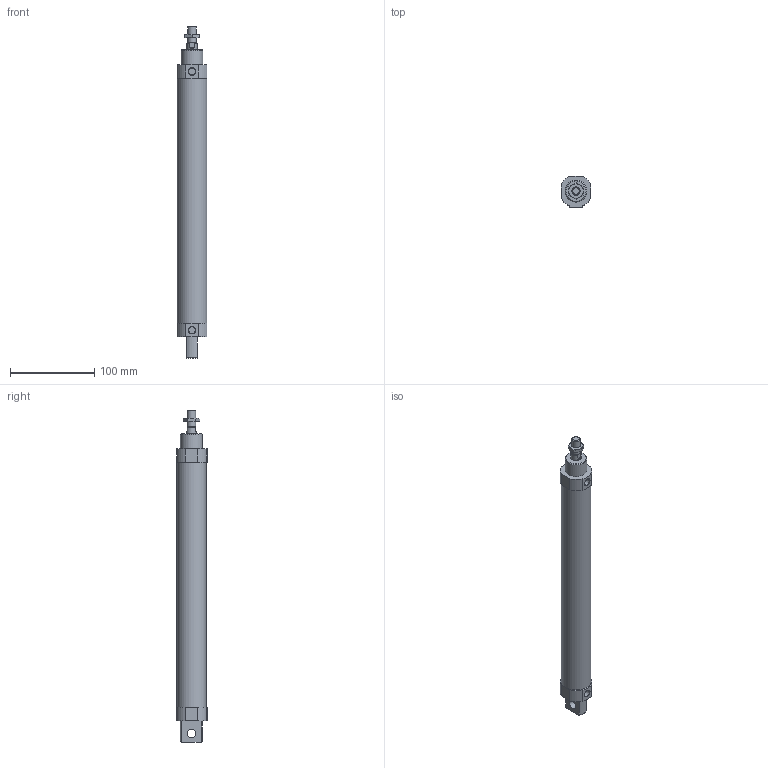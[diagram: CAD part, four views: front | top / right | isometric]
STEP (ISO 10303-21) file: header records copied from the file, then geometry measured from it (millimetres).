
FILE_DESCRIPTION((''),'2;1');
FILE_NAME('I:\3D電子目錄\氣缸\FDA\FDA\FDA\FDA30\FDA30x250.stp','2007-10-16T10:06:34',('66-2f-008'),(''),'Autodesk Inventor 11','Autodesk Inventor 11','');
FILE_SCHEMA(('AUTOMOTIVE_DESIGN { 1 0 10303 214 1 1 1 1 }'));
Length unit declared in the file: millimetre
Products named in the file (1): FDA30
Bounding box: 35 x 36.5 x 394 mm (x, y, z)
Volume: 333412.8 mm3; surface area: 43435.7 mm2
Topology: 1 solids, 1 shells, 79 faces, 184 edges, 114 vertices
Faces by surface type: plane 41, cone 20, cylinder 18
Full cylindrical faces by diameter (mm): 8 x2, 10 x3, 12 x1, 26 x1, 35 x1
Entity records: 2151 total; most frequent: CARTESIAN_POINT 426, DIRECTION 362, ORIENTED_EDGE 340, EDGE_CURVE 170, AXIS2_PLACEMENT_3D 144, VERTEX_POINT 112, EDGE_LOOP 100, FACE_OUTER_BOUND 79
